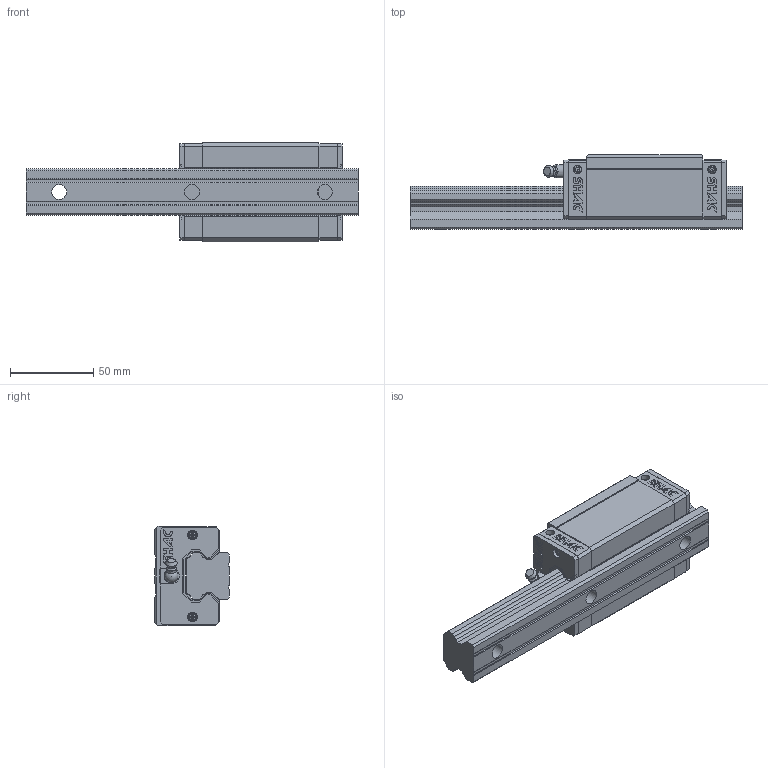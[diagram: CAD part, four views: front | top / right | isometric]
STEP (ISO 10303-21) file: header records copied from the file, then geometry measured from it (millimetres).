
FILE_DESCRIPTION( ( 'STEP AP214' ), '1' );
FILE_NAME( 'F:/品牌/SHAC 台湾鼎翰传动科技有限公司/3D滑块/GHH30CA1R200Z0C-20_20_1_1_.stp', '2025-04-21T22:44:35', ( 'License CC BY-ND 4.0' ), ( 'CADENAS' ), ' ', 'PARTsolutions', ' ' );
FILE_SCHEMA( ( 'AUTOMOTIVE_DESIGN { 1 0 10303 214 1 1 1 1 }' ) );
Length unit declared in the file: millimetre
Products named in the file (8): GHH30CA1R200Z0C-20/20(1_1); _GHR30R200C+RC-20/20(1)_RAIL; _GHH30CA_SLIDER; _GHH30CA_C; _GHH30CA_P; _GH30_SCREW; _GH30_BOLT; _GH30-_G
Assembly tree (12 placements, depth 2):
  GHH30CA1R200Z0C-20/20(1_1)
    _GHR30R200C+RC-20/20(1)_RAIL
    _GHH30CA_SLIDER
    _GHH30CA_C  x2
    _GHH30CA_P  x2
    _GH30_SCREW  x4
    _GH30_BOLT
    _GH30-_G
Bounding box: 200 x 45 x 60 mm (x, y, z)
Volume: 289306 mm3; surface area: 67598.1 mm2
Topology: 12 solids, 12 shells, 772 faces, 2054 edges, 1359 vertices
Faces by surface type: plane 624, cylinder 108, cone 24, torus 10, sphere 5, bspline 1
Full cylindrical faces by diameter (mm): 0.576 x4, 3.3 x4, 4.5 x1, 4.65 x4, 5.1 x4, 5.82 x4, 6 x2, 6.5 x2, 6.647 x4, 7 x2, 8 x1, 8.2 x1, 9 x3, 14 x3
Entity records: 18048 total; most frequent: CARTESIAN_POINT 2659, ORIENTED_EDGE 2360, DIRECTION 2283, EDGE_CURVE 1180, LINE 975, VECTOR 975, VERTEX_POINT 810, AXIS2_PLACEMENT_3D 654
